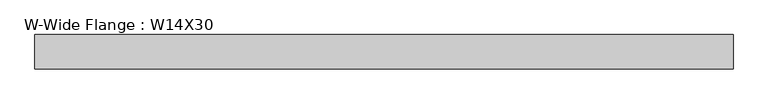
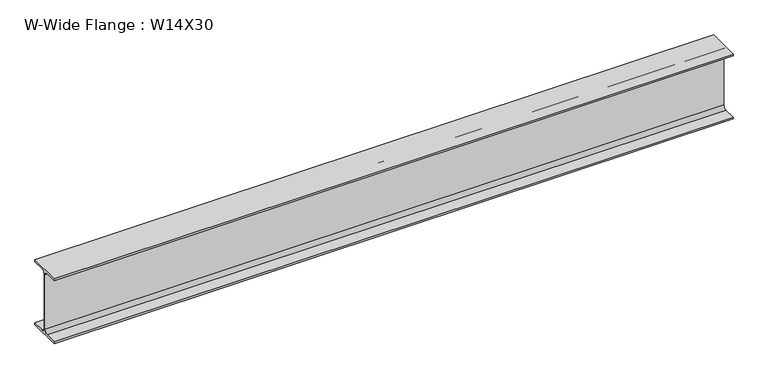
"""IFC4 building model written with IfcOpenShell, lengths in millimetres: beam geometry, W-Wide Flange : W14X30."""

from ifc_helpers import new_model, si_unit, point, frame, frame_2d, origin, place, context, project, spatial, polyline, circle_curve, trimmed, segment, composite_curve, outline, extrude, source, transform, mapped, element, save


def w_wide_flange_w14x30_80b13cbd(model_context):
    return source(origin(), model_context, "Body", "SweptSolid", [
        extrude(outline(composite_curve([segment(polyline([(85.4769531, -165.9433594), (85.4769531, -175.7660156), (-85.4769531, -175.7660156), (-85.4769531, -165.9433594), (-22.1753906, -165.9433594)]), True, "CONTINUOUS"), segment(trimmed(circle_curve(frame_2d((-22.1753906, -147.1910156)), 18.7523438), [point((-22.1753906, -165.9433594))], [point((-3.4230469, -147.1910156))], True, "CARTESIAN"), True, "CONTINUOUS"), segment(polyline([(-3.4230469, -147.1910156), (-3.4230469, 147.1910156)]), True, "CONTINUOUS"), segment(trimmed(circle_curve(frame_2d((-22.1753906, 147.1910156)), 18.7523438), [point((-3.4230469, 147.1910156))], [point((-22.1753906, 165.9433594))], True, "CARTESIAN"), True, "CONTINUOUS"), segment(polyline([(-22.1753906, 165.9433594), (-85.4769531, 165.9433594), (-85.4769531, 175.7660156), (85.4769531, 175.7660156), (85.4769531, 165.9433594), (22.1753906, 165.9433594)]), True, "CONTINUOUS"), segment(trimmed(circle_curve(frame_2d((22.1753906, 147.1910156)), 18.7523438), [point((22.1753906, 165.9433594))], [point((3.4230469, 147.1910156))], True, "CARTESIAN"), True, "CONTINUOUS"), segment(polyline([(3.4230469, 147.1910156), (3.4230469, -147.1910156)]), True, "CONTINUOUS"), segment(trimmed(circle_curve(frame_2d((22.1753906, -147.1910156)), 18.7523438), [point((3.4230469, -147.1910156))], [point((22.1753906, -165.9433594))], True, "CARTESIAN"), True, "CONTINUOUS"), segment(polyline([(22.1753906, -165.9433594), (85.4769531, -165.9433594)]), True, "CONTINUOUS")], self_intersect=False)), frame((-1730.6230469, 0.0, 0.0), z_axis=(1.0, 0.0, 0.0), x_axis=(0.0, 1.0, 0.0)), (0.0, 0.0, 1.0), 3476.8730469),
    ])


if __name__ == "__main__":
    model = new_model("IFC4")
    model_context = context("Model", 3, world=origin())
    ifc_project = project(units=[si_unit("LENGTHUNIT", "METRE", prefix="MILLI")], contexts=[model_context])
    site = spatial("IfcSite", under=ifc_project)
    building = spatial("IfcBuilding", under=site)
    placement = place(None, origin())
    w_wide_flange_w14x30_shape = w_wide_flange_w14x30_80b13cbd(model_context)
    element("IfcBeam", 1, ObjectType="W-Wide Flange : W14X30", at=placement, inside=building, context=model_context, shape_type="MappedRepresentation", body=[
        mapped(w_wide_flange_w14x30_shape, transform((0.0, 0.0, 0.0), x_axis=(1.0, 0.0, 0.0), y_axis=(0.0, 1.0, 0.0), z_axis=(0.0, 0.0, 1.0))),
    ])
    save(model, "model.ifc")
